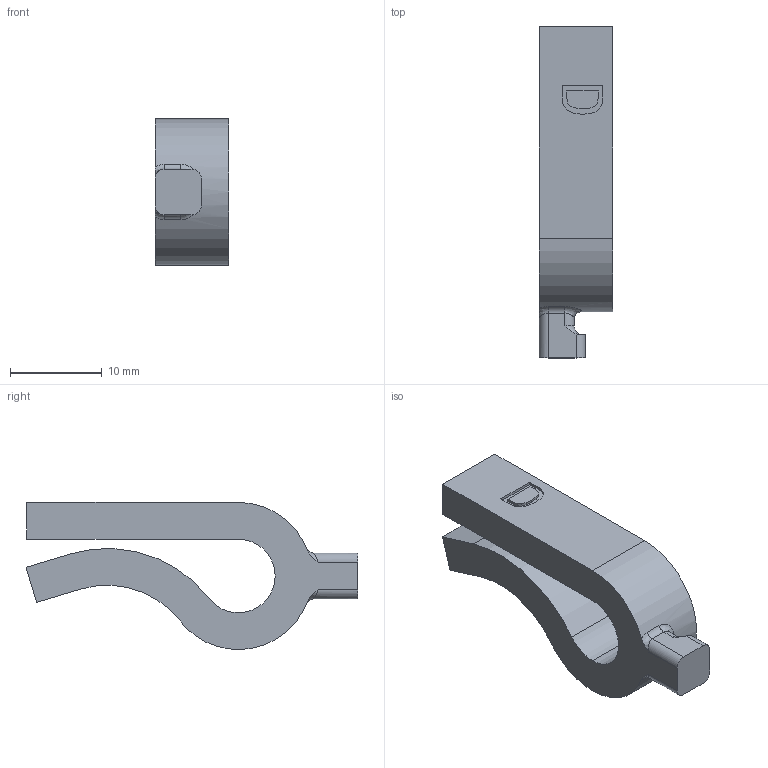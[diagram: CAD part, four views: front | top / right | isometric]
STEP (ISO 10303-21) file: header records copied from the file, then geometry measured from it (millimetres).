
FILE_DESCRIPTION(('CATIA V5 STEP Exchange'),'2;1');
FILE_NAME('C:\Users\FBAERT\Documents\Vis Casque\ClipsD_v2.stp','2020-04-09T16:04:54+00:00',('none'),('none'),'CATIA Version 5 Release 20 GA (IN-10)','CATIA V5 STEP AP203','none');
FILE_SCHEMA(('CONFIG_CONTROL_DESIGN'));
Length unit declared in the file: millimetre
Products named in the file (1): ClipsD
Bounding box: 8 x 36.09 x 16 mm (x, y, z)
Volume: 2246.2 mm3; surface area: 1771.2 mm2
Topology: 1 solids, 1 shells, 62 faces, 166 edges, 108 vertices
Faces by surface type: plane 40, cylinder 15, bspline 4, torus 3
Entity records: 2184 total; most frequent: CARTESIAN_POINT 645, ORIENTED_EDGE 332, DIRECTION 262, EDGE_CURVE 166, VECTOR 119, LINE 119, VERTEX_POINT 108, AXIS2_PLACEMENT_3D 87
